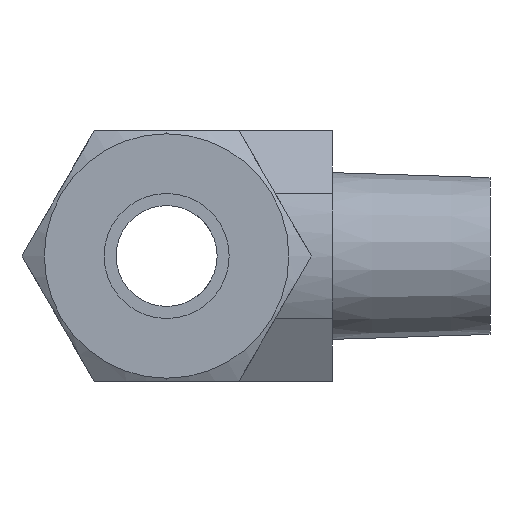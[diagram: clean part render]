
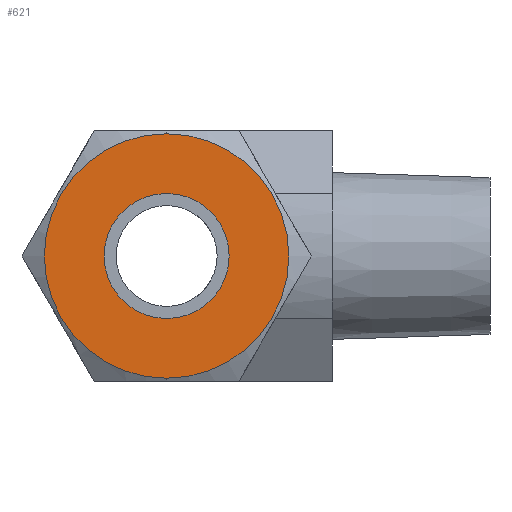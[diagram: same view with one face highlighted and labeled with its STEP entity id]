
A CAD part, left-side view. The second image highlights one B-rep face of the part: STEP entity #621.
In plain terms, the highlighted planar face has unit normal (-1, 0, 0).
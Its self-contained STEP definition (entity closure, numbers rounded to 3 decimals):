
#5 = EDGE_CURVE ( 'NONE', #2369, #23, #743, .T. ) ;
#23 = VERTEX_POINT ( 'NONE', #760 ) ;
#24 = EDGE_CURVE ( 'NONE', #26, #29, #754, .T. ) ;
#26 = VERTEX_POINT ( 'NONE', #805 ) ;
#29 = VERTEX_POINT ( 'NONE', #804 ) ;
#568 = EDGE_CURVE ( 'NONE', #23, #2369, #1861, .T. ) ;
#569 = EDGE_LOOP ( 'NONE', ( #622, #624 ) ) ;
#621 = ADVANCED_FACE ( 'NONE', ( #1930, #1929 ), #1934, .T. ) ;
#622 = ORIENTED_EDGE ( 'NONE', *, *, #623, .F. ) ;
#623 = EDGE_CURVE ( 'NONE', #29, #26, #1923, .T. ) ;
#624 = ORIENTED_EDGE ( 'NONE', *, *, #24, .F. ) ;
#625 = EDGE_LOOP ( 'NONE', ( #626, #627 ) ) ;
#626 = ORIENTED_EDGE ( 'NONE', *, *, #5, .T. ) ;
#627 = ORIENTED_EDGE ( 'NONE', *, *, #568, .T. ) ;
#739 = DIRECTION ( 'NONE',  ( 0., 0., -1. ) ) ;
#740 = DIRECTION ( 'NONE',  ( 1., 0., 0. ) ) ;
#741 = CARTESIAN_POINT ( 'NONE',  ( -29.9, 0., 0. ) ) ;
#742 = AXIS2_PLACEMENT_3D ( 'NONE', #741, #740, #739 ) ;
#743 = CIRCLE ( 'NONE', #742, 3.965 ) ;
#754 = CIRCLE ( 'NONE', #813, 7.75 ) ;
#760 = CARTESIAN_POINT ( 'NONE',  ( -29.9, 0., -3.965 ) ) ;
#804 = CARTESIAN_POINT ( 'NONE',  ( -29.9, 0., 7.75 ) ) ;
#805 = CARTESIAN_POINT ( 'NONE',  ( -29.9, 0., -7.75 ) ) ;
#810 = DIRECTION ( 'NONE',  ( 0., 0., -1. ) ) ;
#811 = DIRECTION ( 'NONE',  ( 1., 0., 0. ) ) ;
#812 = CARTESIAN_POINT ( 'NONE',  ( -29.9, 0., 0. ) ) ;
#813 = AXIS2_PLACEMENT_3D ( 'NONE', #812, #811, #810 ) ;
#1857 = DIRECTION ( 'NONE',  ( 0., 0., -1. ) ) ;
#1858 = DIRECTION ( 'NONE',  ( 1., 0., 0. ) ) ;
#1859 = CARTESIAN_POINT ( 'NONE',  ( -29.9, 0., 0. ) ) ;
#1860 = AXIS2_PLACEMENT_3D ( 'NONE', #1859, #1858, #1857 ) ;
#1861 = CIRCLE ( 'NONE', #1860, 3.965 ) ;
#1920 = DIRECTION ( 'NONE',  ( 0., 0., -1. ) ) ;
#1921 = DIRECTION ( 'NONE',  ( 1., 0., 0. ) ) ;
#1922 = AXIS2_PLACEMENT_3D ( 'NONE', #1927, #1921, #1920 ) ;
#1923 = CIRCLE ( 'NONE', #1922, 7.75 ) ;
#1924 = DIRECTION ( 'NONE',  ( 0., 0., -1. ) ) ;
#1925 = DIRECTION ( 'NONE',  ( -1., 0., 0. ) ) ;
#1926 = CARTESIAN_POINT ( 'NONE',  ( -29.9, 9.168, 0. ) ) ;
#1927 = CARTESIAN_POINT ( 'NONE',  ( -29.9, 0., 0. ) ) ;
#1928 = AXIS2_PLACEMENT_3D ( 'NONE', #1926, #1925, #1924 ) ;
#1929 = FACE_BOUND ( 'NONE', #625, .T. ) ;
#1930 = FACE_OUTER_BOUND ( 'NONE', #569, .T. ) ;
#1934 = PLANE ( 'NONE',  #1928 ) ;
#2157 = CARTESIAN_POINT ( 'NONE',  ( -29.9, 0., 3.965 ) ) ;
#2369 = VERTEX_POINT ( 'NONE', #2157 ) ;
